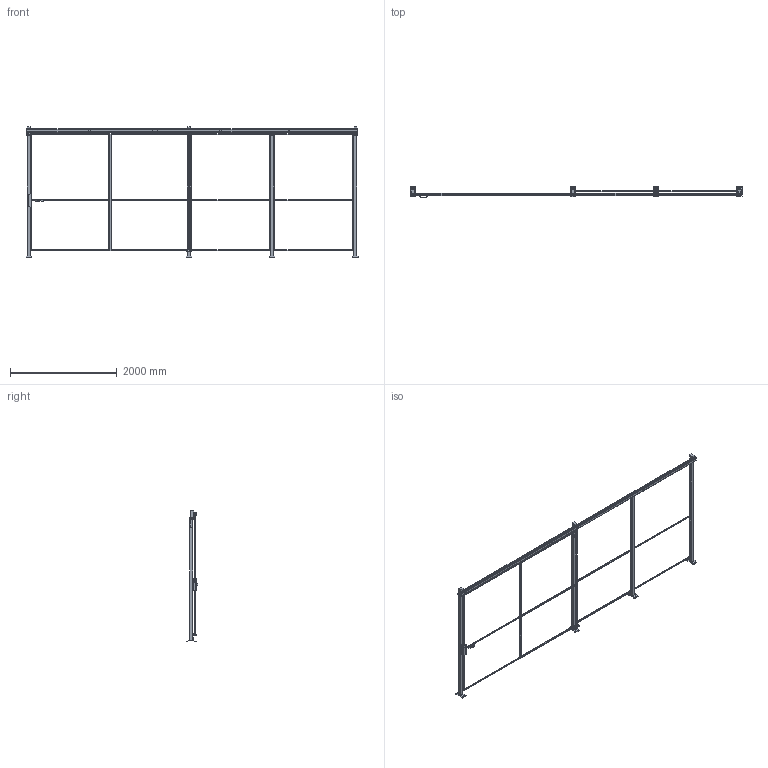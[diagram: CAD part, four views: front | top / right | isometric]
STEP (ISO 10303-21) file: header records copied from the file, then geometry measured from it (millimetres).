
FILE_DESCRIPTION(/* description */ (''),/* implementation_level */ '2;1');
FILE_NAME(/* name */ 'C:\SafeGuarding\ELABORATI\VZOR§POSUVNE_2650x2520_2025-02-13-08-25-35.stp',/* time_stamp */ '2025-02-13T08:25:45+01:00',/* author */ ('admin'),/* organization */ (''),/* preprocessor_version */ 'ST-DEVELOPER v18.1',/* originating_system */ 'AutoCAD Mechanical',/* authorisation */ '');
FILE_SCHEMA (('AUTOMOTIVE_DESIGN { 1 0 10303 214 3 1 1 }'));
Length unit declared in the file: millimetre
Products named in the file (4): Product; R_VFPA.REPE20.15002200; DATI_PORTA; P_VFMA.ME60SDU.2320
Assembly tree (9 placements, depth 2):
  Product
    P_VFMA.ME60SDU.2320  x4
    R_VFPA.REPE20.15002200  x4
    DATI_PORTA
Bounding box: 6230 x 219.95 x 2454 mm (x, y, z)
Volume: 58902352 mm3; surface area: 8464162.5 mm2
Topology: 51 solids, 62 shells, 701 faces, 2398 edges, 2484 vertices
Faces by surface type: plane 651, cylinder 48, sphere 2
Full cylindrical faces by diameter (mm): 11 x16, 12 x2, 15 x4, 40 x4
Entity records: 15529 total; most frequent: CARTESIAN_POINT 3222, DIRECTION 2357, ORIENTED_EDGE 2334, EDGE_CURVE 1216, LINE 1175, VECTOR 1175, VERTEX_POINT 852, AXIS2_PLACEMENT_3D 591
